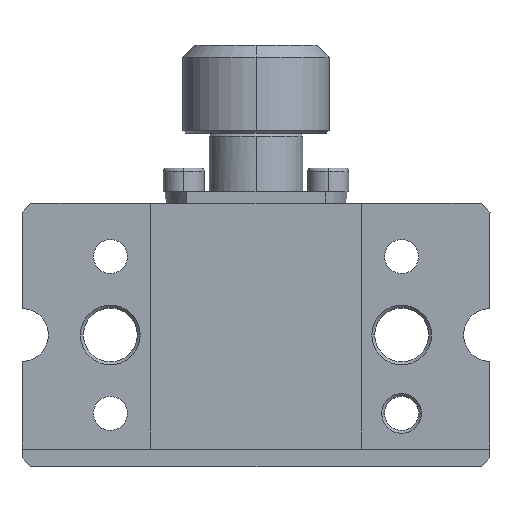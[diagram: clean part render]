
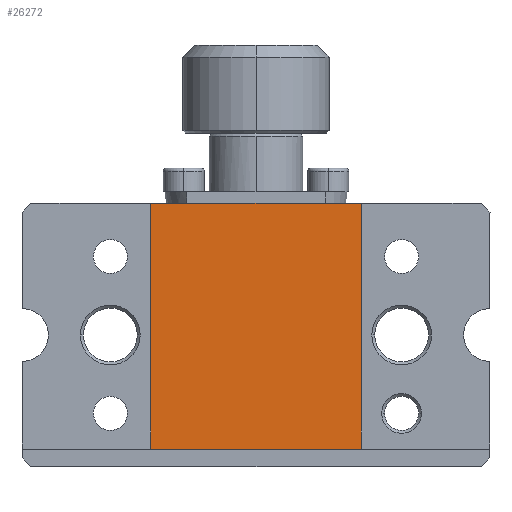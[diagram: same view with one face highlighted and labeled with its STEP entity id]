
A CAD part, front view. The second image highlights one B-rep face of the part: STEP entity #26272.
In plain terms, the highlighted planar face has unit normal (0, -1, 0).
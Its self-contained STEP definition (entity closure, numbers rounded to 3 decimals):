
#682 = CARTESIAN_POINT ( 'NONE',  ( -263.157, 4.675, 142.67 ) ) ;
#1991 = VERTEX_POINT ( 'NONE', #24929 ) ;
#4517 = ORIENTED_EDGE ( 'NONE', *, *, #17255, .T. ) ;
#4852 = CARTESIAN_POINT ( 'NONE',  ( -205.157, 4.675, 142.67 ) ) ;
#5398 = VECTOR ( 'NONE', #23720, 1000. ) ;
#6260 = ORIENTED_EDGE ( 'NONE', *, *, #11794, .T. ) ;
#6808 = EDGE_LOOP ( 'NONE', ( #6260, #11436, #4517, #11255 ) ) ;
#6892 = VERTEX_POINT ( 'NONE', #682 ) ;
#7069 = LINE ( 'NONE', #23123, #8197 ) ;
#7128 = CARTESIAN_POINT ( 'NONE',  ( -263.157, 4.675, 100.67 ) ) ;
#8197 = VECTOR ( 'NONE', #11722, 1000. ) ;
#8664 = VERTEX_POINT ( 'NONE', #7128 ) ;
#11255 = ORIENTED_EDGE ( 'NONE', *, *, #13215, .T. ) ;
#11266 = CARTESIAN_POINT ( 'NONE',  ( -285.157, 4.675, 120.17 ) ) ;
#11436 = ORIENTED_EDGE ( 'NONE', *, *, #27093, .T. ) ;
#11722 = DIRECTION ( 'NONE',  ( 0., 0., -1. ) ) ;
#11794 = EDGE_CURVE ( 'NONE', #1991, #6892, #26031, .T. ) ;
#12790 = CARTESIAN_POINT ( 'NONE',  ( -227.157, 4.675, 120.17 ) ) ;
#12805 = DIRECTION ( 'NONE',  ( 1., 0., 0. ) ) ;
#13215 = EDGE_CURVE ( 'NONE', #18960, #1991, #24522, .T. ) ;
#15720 = DIRECTION ( 'NONE',  ( -1., 0., 0. ) ) ;
#17255 = EDGE_CURVE ( 'NONE', #8664, #18960, #21900, .T. ) ;
#18314 = PLANE ( 'NONE',  #30312 ) ;
#18960 = VERTEX_POINT ( 'NONE', #27416 ) ;
#20637 = DIRECTION ( 'NONE',  ( 0., 1., 0. ) ) ;
#21900 = LINE ( 'NONE', #27158, #24100 ) ;
#22185 = DIRECTION ( 'NONE',  ( 0., 0., 1. ) ) ;
#23123 = CARTESIAN_POINT ( 'NONE',  ( -263.157, 4.675, 120.17 ) ) ;
#23311 = VECTOR ( 'NONE', #22185, 1000. ) ;
#23720 = DIRECTION ( 'NONE',  ( -1., 0., 0. ) ) ;
#24100 = VECTOR ( 'NONE', #12805, 1000. ) ;
#24522 = LINE ( 'NONE', #12790, #23311 ) ;
#24929 = CARTESIAN_POINT ( 'NONE',  ( -227.157, 4.675, 142.67 ) ) ;
#26031 = LINE ( 'NONE', #4852, #5398 ) ;
#26272 = ADVANCED_FACE ( 'NONE', ( #30092 ), #18314, .F. ) ;
#27093 = EDGE_CURVE ( 'NONE', #6892, #8664, #7069, .T. ) ;
#27158 = CARTESIAN_POINT ( 'NONE',  ( -285.157, 4.675, 100.67 ) ) ;
#27416 = CARTESIAN_POINT ( 'NONE',  ( -227.157, 4.675, 100.67 ) ) ;
#30092 = FACE_OUTER_BOUND ( 'NONE', #6808, .T. ) ;
#30312 = AXIS2_PLACEMENT_3D ( 'NONE', #11266, #20637, #15720 ) ;
